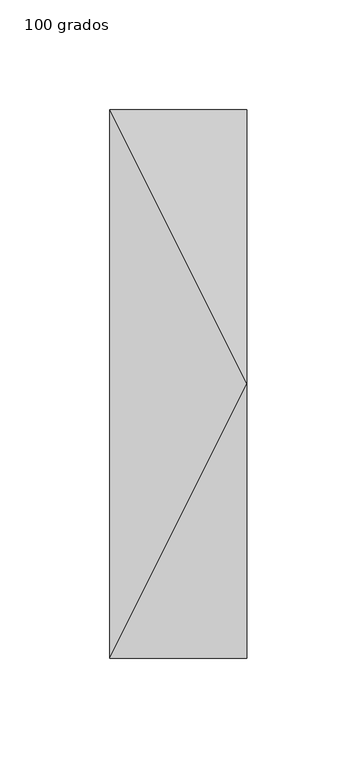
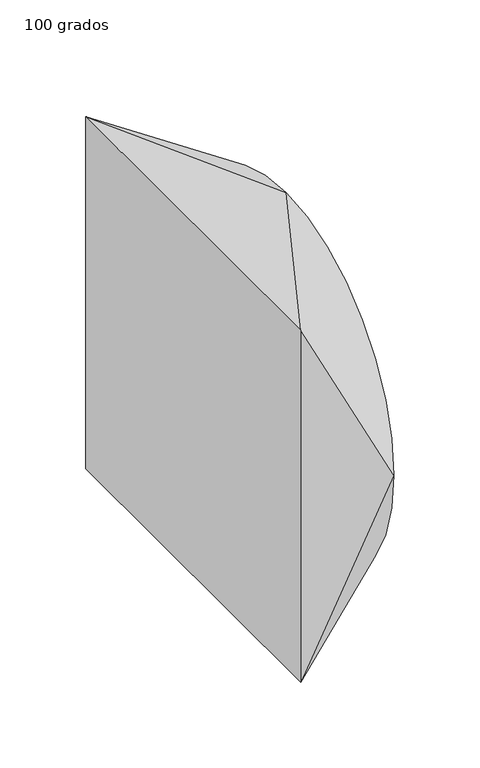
"""IFC4 building model written with IfcOpenShell, lengths in millimetres: duct fitting geometry, M_Transición de rectangular a redondo - Ángulo : 100 grados."""

from ifc_helpers import new_model, si_unit, frame, origin, place, context, project, spatial, circle_curve, source, transform, mapped, element, save
from ifc_brep_helpers import plane_surface, spline_surface, advanced_brep


def duct_fitting_100_grados_cdddea5c(model_context):
    return source(origin(), model_context, "Body", "AdvancedBrep", [
        advanced_brep(
        [(62.5, 0.0, 125.0), (62.5, -125.0, 0.0), (62.5, 0.0, -125.0), (62.5, 125.0, 0.0), (0.0, -125.0, 125.0), (0.0, 125.0, 125.0), (0.0, 125.0, -125.0), (0.0, -125.0, -125.0)],
        [
            (0, 1, circle_curve(frame((62.5, 0.0, 0.0), z_axis=(1.0, 0.0, 0.0), x_axis=(0.0, 1.0, 0.0)), 125.0)),
            (1, 2, circle_curve(frame((62.5, 0.0, 0.0), z_axis=(1.0, 0.0, 0.0), x_axis=(0.0, 1.0, 0.0)), 125.0)),
            (2, 3, circle_curve(frame((62.5, 0.0, 0.0), z_axis=(1.0, 0.0, 0.0), x_axis=(0.0, 1.0, 0.0)), 125.0)),
            (3, 0, circle_curve(frame((62.5, 0.0, 0.0), z_axis=(1.0, 0.0, 0.0), x_axis=(0.0, 1.0, 0.0)), 125.0)),
            (4, 5),
            (5, 6),
            (6, 7),
            (7, 4),
            (0, 4),
            (4, 1),
            (7, 1),
            (7, 2),
            (6, 2),
            (6, 3),
            (5, 3),
            (5, 0),
        ],
        [
            plane_surface(frame((62.5, 0.0, 0.0), z_axis=(1.0, 0.0, 0.0), x_axis=(0.0, 0.0, -1.0))),
            plane_surface(frame((0.0, 0.0, 0.0), z_axis=(-1.0, 0.0, 0.0), x_axis=(0.0, 0.0, -1.0))),
            spline_surface(2, 1, [[(0.0, -125.0, 125.0), (62.5, 0.0, 125.0)], [(0.0, -125.0, 125.0), (62.5, -125.0, 125.0)], [(0.0, -125.0, 125.0), (62.5, -125.0, 0.0)]], [3, 3], [2, 2], [0.0, 1.0], [0.0, 1.0], weights=[[1.0, 1.0], [0.7071067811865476, 0.7071067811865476], [1.0, 1.0]]),
            plane_surface(frame((0.0, -125.0, 0.0), z_axis=(0.0, -1.0, 0.0), x_axis=(0.0, 0.0, -1.0))),
            spline_surface(2, 1, [[(0.0, -125.0, -125.0), (62.5, -125.0, 0.0)], [(0.0, -125.0, -125.0), (62.5, -125.0, -125.0)], [(0.0, -125.0, -125.0), (62.5, 0.0, -125.0)]], [3, 3], [2, 2], [0.0, 1.0], [0.0, 1.0], weights=[[1.0, 1.0], [0.7071067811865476, 0.7071067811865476], [1.0, 1.0]]),
            plane_surface(frame((0.0, 0.0, -125.0), z_axis=(0.0, 0.0, -1.0), x_axis=(0.0, 1.0, 0.0))),
            spline_surface(2, 1, [[(0.0, 125.0, -125.0), (62.5, 0.0, -125.0)], [(0.0, 125.0, -125.0), (62.5, 125.0, -125.0)], [(0.0, 125.0, -125.0), (62.5, 125.0, 0.0)]], [3, 3], [2, 2], [0.0, 1.0], [0.0, 1.0], weights=[[1.0, 1.0], [0.7071067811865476, 0.7071067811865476], [1.0, 1.0]]),
            plane_surface(frame((0.0, 125.0, 0.0), z_axis=(0.0, 1.0, 0.0), x_axis=(0.0, 0.0, 1.0))),
            spline_surface(2, 1, [[(0.0, 125.0, 125.0), (62.5, 125.0, 0.0)], [(0.0, 125.0, 125.0), (62.5, 125.0, 125.0)], [(0.0, 125.0, 125.0), (62.5, 0.0, 125.0)]], [3, 3], [2, 2], [0.0, 1.0], [0.0, 1.0], weights=[[1.0, 1.0], [0.7071067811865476, 0.7071067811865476], [1.0, 1.0]]),
            plane_surface(frame((0.0, 0.0, 125.0), z_axis=(0.0, 0.0, 1.0), x_axis=(0.0, -1.0, 0.0))),
        ],
        [
            (0, [[1, 2, 3, 4]]),
            (1, [[5, 6, 7, 8]]),
            (2, [[-1, 9, 10]]),
            (3, [[-8, 11, -10]]),
            (4, [[-2, -11, 12]]),
            (5, [[-7, 13, -12]]),
            (6, [[-3, -13, 14]]),
            (7, [[-6, 15, -14]]),
            (8, [[-4, -15, 16]]),
            (9, [[-5, -9, -16]]),
        ],
    ),
    ])


if __name__ == "__main__":
    model = new_model("IFC4")
    model_context = context("Model", 3, world=origin())
    ifc_project = project(units=[si_unit("LENGTHUNIT", "METRE", prefix="MILLI")], contexts=[model_context])
    site = spatial("IfcSite", under=ifc_project)
    building = spatial("IfcBuilding", under=site)
    placement = place(None, origin())
    duct_fitting_100_grados_shape = duct_fitting_100_grados_cdddea5c(model_context)
    element("IfcDuctFitting", 1, ObjectType="M_Transición de rectangular a redondo - Ángulo : 100 grados", at=placement, inside=building, context=model_context, shape_type="MappedRepresentation", body=[
        mapped(duct_fitting_100_grados_shape, transform((0.0, 0.0, 0.0), x_axis=(1.0, 0.0, 0.0), y_axis=(0.0, 1.0, 0.0), z_axis=(0.0, 0.0, 1.0))),
    ])
    save(model, "model.ifc")
